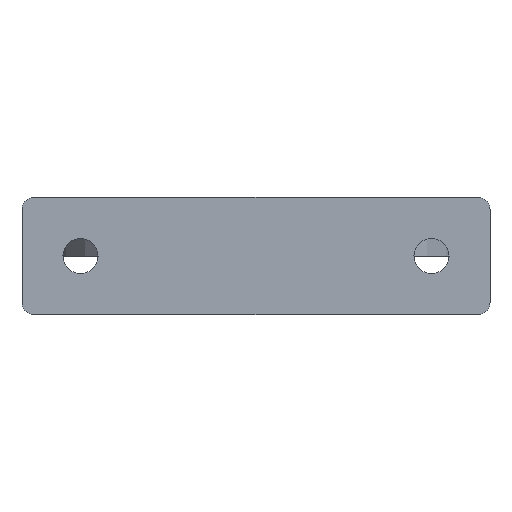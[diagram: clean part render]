
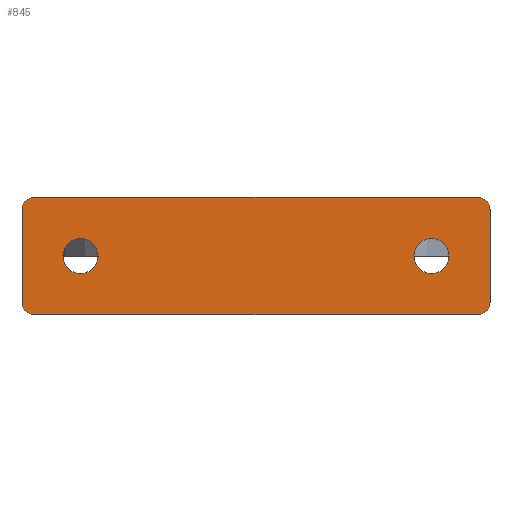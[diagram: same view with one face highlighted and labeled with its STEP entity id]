
A CAD part, front view. The second image highlights one B-rep face of the part: STEP entity #845.
In plain terms, the highlighted planar face has unit normal (0, -1, 0).
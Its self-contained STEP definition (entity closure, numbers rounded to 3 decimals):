
#2 = FACE_BOUND ( 'NONE', #778, .T. ) ;
#7 = EDGE_LOOP ( 'NONE', ( #568, #271, #324, #616, #142, #386, #33, #455 ) ) ;
#16 = CARTESIAN_POINT ( 'NONE',  ( -19., -34.5, 7. ) ) ;
#19 = DIRECTION ( 'NONE',  ( 0., 0., -1. ) ) ;
#21 = AXIS2_PLACEMENT_3D ( 'NONE', #622, #262, #841 ) ;
#33 = ORIENTED_EDGE ( 'NONE', *, *, #78, .F. ) ;
#39 = CARTESIAN_POINT ( 'NONE',  ( 15., -34.5, 2. ) ) ;
#47 = CIRCLE ( 'NONE', #577, 1. ) ;
#59 = CARTESIAN_POINT ( 'NONE',  ( 19., -34.5, -3. ) ) ;
#60 = LINE ( 'NONE', #351, #611 ) ;
#62 = CIRCLE ( 'NONE', #664, 1. ) ;
#64 = DIRECTION ( 'NONE',  ( 0., 0., 1. ) ) ;
#65 = VERTEX_POINT ( 'NONE', #258 ) ;
#69 = VERTEX_POINT ( 'NONE', #689 ) ;
#71 = VECTOR ( 'NONE', #836, 1000. ) ;
#74 = DIRECTION ( 'NONE',  ( 0., -1., 0. ) ) ;
#78 = EDGE_CURVE ( 'NONE', #372, #881, #470, .T. ) ;
#82 = DIRECTION ( 'NONE',  ( 0., 0., -1. ) ) ;
#87 = AXIS2_PLACEMENT_3D ( 'NONE', #940, #74, #653 ) ;
#91 = PLANE ( 'NONE',  #178 ) ;
#93 = EDGE_CURVE ( 'NONE', #69, #292, #604, .T. ) ;
#121 = LINE ( 'NONE', #413, #71 ) ;
#128 = EDGE_CURVE ( 'NONE', #648, #537, #121, .T. ) ;
#135 = VECTOR ( 'NONE', #719, 1000. ) ;
#136 = CARTESIAN_POINT ( 'NONE',  ( -19., -34.5, -2. ) ) ;
#142 = ORIENTED_EDGE ( 'NONE', *, *, #618, .T. ) ;
#144 = CARTESIAN_POINT ( 'NONE',  ( 20., -34.5, -3. ) ) ;
#146 = EDGE_CURVE ( 'NONE', #372, #65, #436, .T. ) ;
#153 = EDGE_CURVE ( 'NONE', #770, #881, #160, .T. ) ;
#160 = CIRCLE ( 'NONE', #21, 1. ) ;
#178 = AXIS2_PLACEMENT_3D ( 'NONE', #671, #293, #19 ) ;
#242 = EDGE_CURVE ( 'NONE', #672, #65, #60, .T. ) ;
#250 = CARTESIAN_POINT ( 'NONE',  ( -19., -34.5, 6. ) ) ;
#254 = DIRECTION ( 'NONE',  ( 0., -1., 0. ) ) ;
#258 = CARTESIAN_POINT ( 'NONE',  ( -20., -34.5, 6. ) ) ;
#262 = DIRECTION ( 'NONE',  ( 0., -1., 0. ) ) ;
#271 = ORIENTED_EDGE ( 'NONE', *, *, #633, .T. ) ;
#277 = DIRECTION ( 'NONE',  ( 0., 0., -1. ) ) ;
#292 = VERTEX_POINT ( 'NONE', #773 ) ;
#293 = DIRECTION ( 'NONE',  ( 0., -1., 0. ) ) ;
#294 = CARTESIAN_POINT ( 'NONE',  ( -15., -34.5, 0.5 ) ) ;
#324 = ORIENTED_EDGE ( 'NONE', *, *, #128, .T. ) ;
#336 = DIRECTION ( 'NONE',  ( 0., 0., -1. ) ) ;
#351 = CARTESIAN_POINT ( 'NONE',  ( -20., -34.5, -3. ) ) ;
#368 = LINE ( 'NONE', #144, #135 ) ;
#369 = VERTEX_POINT ( 'NONE', #747 ) ;
#372 = VERTEX_POINT ( 'NONE', #16 ) ;
#373 = FACE_BOUND ( 'NONE', #758, .T. ) ;
#386 = ORIENTED_EDGE ( 'NONE', *, *, #153, .T. ) ;
#406 = AXIS2_PLACEMENT_3D ( 'NONE', #39, #686, #558 ) ;
#413 = CARTESIAN_POINT ( 'NONE',  ( -20., -34.5, -3. ) ) ;
#429 = DIRECTION ( 'NONE',  ( 0., -1., 0. ) ) ;
#434 = EDGE_CURVE ( 'NONE', #369, #669, #772, .T. ) ;
#436 = CIRCLE ( 'NONE', #646, 1. ) ;
#439 = ORIENTED_EDGE ( 'NONE', *, *, #93, .F. ) ;
#440 = CIRCLE ( 'NONE', #625, 1.5 ) ;
#451 = ORIENTED_EDGE ( 'NONE', *, *, #682, .F. ) ;
#454 = ORIENTED_EDGE ( 'NONE', *, *, #658, .F. ) ;
#455 = ORIENTED_EDGE ( 'NONE', *, *, #146, .T. ) ;
#470 = LINE ( 'NONE', #767, #480 ) ;
#480 = VECTOR ( 'NONE', #627, 1000. ) ;
#504 = CIRCLE ( 'NONE', #87, 1.5 ) ;
#510 = CARTESIAN_POINT ( 'NONE',  ( 15., -34.5, 2. ) ) ;
#517 = DIRECTION ( 'NONE',  ( 0., 0., -1. ) ) ;
#530 = CARTESIAN_POINT ( 'NONE',  ( 20., -34.5, 6. ) ) ;
#537 = VERTEX_POINT ( 'NONE', #59 ) ;
#558 = DIRECTION ( 'NONE',  ( 0., 0., -1. ) ) ;
#563 = AXIS2_PLACEMENT_3D ( 'NONE', #668, #600, #673 ) ;
#568 = ORIENTED_EDGE ( 'NONE', *, *, #242, .F. ) ;
#569 = CARTESIAN_POINT ( 'NONE',  ( 20., -34.5, -2. ) ) ;
#577 = AXIS2_PLACEMENT_3D ( 'NONE', #649, #936, #82 ) ;
#588 = CARTESIAN_POINT ( 'NONE',  ( -20., -34.5, -2. ) ) ;
#600 = DIRECTION ( 'NONE',  ( 0., -1., 0. ) ) ;
#602 = VERTEX_POINT ( 'NONE', #569 ) ;
#604 = CIRCLE ( 'NONE', #406, 1.5 ) ;
#611 = VECTOR ( 'NONE', #64, 1000. ) ;
#616 = ORIENTED_EDGE ( 'NONE', *, *, #724, .T. ) ;
#618 = EDGE_CURVE ( 'NONE', #602, #770, #368, .T. ) ;
#622 = CARTESIAN_POINT ( 'NONE',  ( 19., -34.5, 6. ) ) ;
#625 = AXIS2_PLACEMENT_3D ( 'NONE', #510, #429, #517 ) ;
#627 = DIRECTION ( 'NONE',  ( 1., 0., 0. ) ) ;
#633 = EDGE_CURVE ( 'NONE', #672, #648, #62, .T. ) ;
#646 = AXIS2_PLACEMENT_3D ( 'NONE', #250, #254, #336 ) ;
#648 = VERTEX_POINT ( 'NONE', #657 ) ;
#649 = CARTESIAN_POINT ( 'NONE',  ( 19., -34.5, -2. ) ) ;
#653 = DIRECTION ( 'NONE',  ( 0., 0., -1. ) ) ;
#657 = CARTESIAN_POINT ( 'NONE',  ( -19., -34.5, -3. ) ) ;
#658 = EDGE_CURVE ( 'NONE', #669, #369, #504, .T. ) ;
#664 = AXIS2_PLACEMENT_3D ( 'NONE', #136, #932, #277 ) ;
#668 = CARTESIAN_POINT ( 'NONE',  ( -15., -34.5, 2. ) ) ;
#669 = VERTEX_POINT ( 'NONE', #294 ) ;
#671 = CARTESIAN_POINT ( 'NONE',  ( -20., -34.5, -3. ) ) ;
#672 = VERTEX_POINT ( 'NONE', #588 ) ;
#673 = DIRECTION ( 'NONE',  ( 0., 0., -1. ) ) ;
#681 = CARTESIAN_POINT ( 'NONE',  ( 19., -34.5, 7. ) ) ;
#682 = EDGE_CURVE ( 'NONE', #292, #69, #440, .T. ) ;
#686 = DIRECTION ( 'NONE',  ( 0., -1., 0. ) ) ;
#689 = CARTESIAN_POINT ( 'NONE',  ( 15., -34.5, 3.5 ) ) ;
#719 = DIRECTION ( 'NONE',  ( 0., 0., 1. ) ) ;
#724 = EDGE_CURVE ( 'NONE', #537, #602, #47, .T. ) ;
#738 = ORIENTED_EDGE ( 'NONE', *, *, #434, .F. ) ;
#741 = FACE_OUTER_BOUND ( 'NONE', #7, .T. ) ;
#747 = CARTESIAN_POINT ( 'NONE',  ( -15., -34.5, 3.5 ) ) ;
#758 = EDGE_LOOP ( 'NONE', ( #439, #451 ) ) ;
#767 = CARTESIAN_POINT ( 'NONE',  ( -20., -34.5, 7. ) ) ;
#770 = VERTEX_POINT ( 'NONE', #530 ) ;
#772 = CIRCLE ( 'NONE', #563, 1.5 ) ;
#773 = CARTESIAN_POINT ( 'NONE',  ( 15., -34.5, 0.5 ) ) ;
#778 = EDGE_LOOP ( 'NONE', ( #738, #454 ) ) ;
#836 = DIRECTION ( 'NONE',  ( 1., 0., 0. ) ) ;
#841 = DIRECTION ( 'NONE',  ( 0., 0., -1. ) ) ;
#845 = ADVANCED_FACE ( 'NONE', ( #373, #2, #741 ), #91, .T. ) ;
#881 = VERTEX_POINT ( 'NONE', #681 ) ;
#932 = DIRECTION ( 'NONE',  ( 0., -1., 0. ) ) ;
#936 = DIRECTION ( 'NONE',  ( 0., -1., 0. ) ) ;
#940 = CARTESIAN_POINT ( 'NONE',  ( -15., -34.5, 2. ) ) ;
